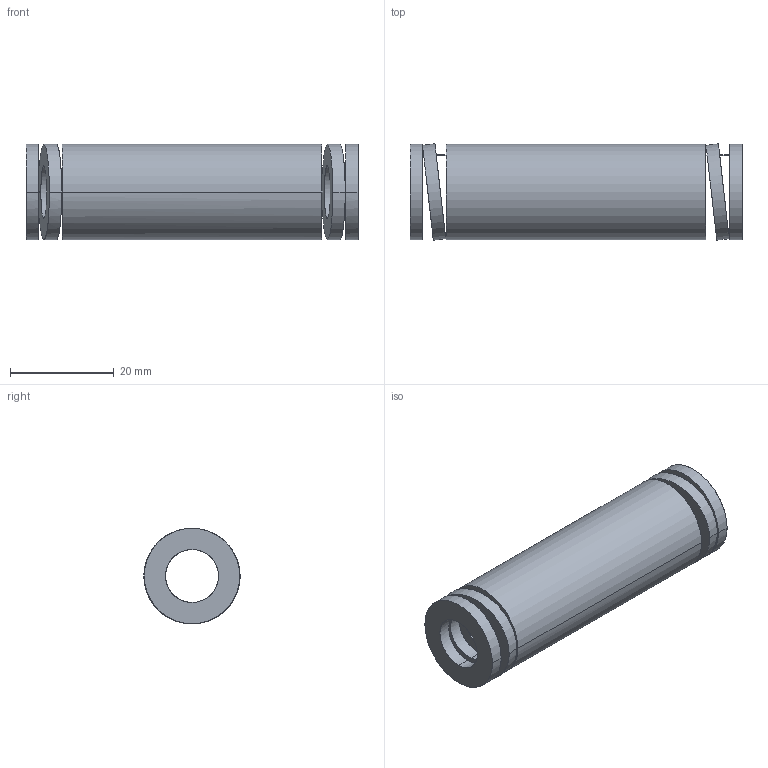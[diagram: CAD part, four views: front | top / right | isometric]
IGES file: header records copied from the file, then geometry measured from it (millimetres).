
Start section: START RECORD GO HERE.
Global section: file name: 392-B20-064.igs; native system: DASSAULT SYSTEMES CATIA V5 R20 - www.3ds.com; preprocessor: CATIA Version 5 Release 20 ; author: Utente; organization: NB04-ASUS; date: 20210812.155618; units: millimetre
Bounding box: 64 x 18.55 x 18.4 mm (x, y, z)
Surface area: 7206.6 mm2 (no closed solid volume)
Topology: 0 solids, 0 shells, 38 faces, 184 edges, 184 vertices
Faces by surface type: revolution 28, plane 10
